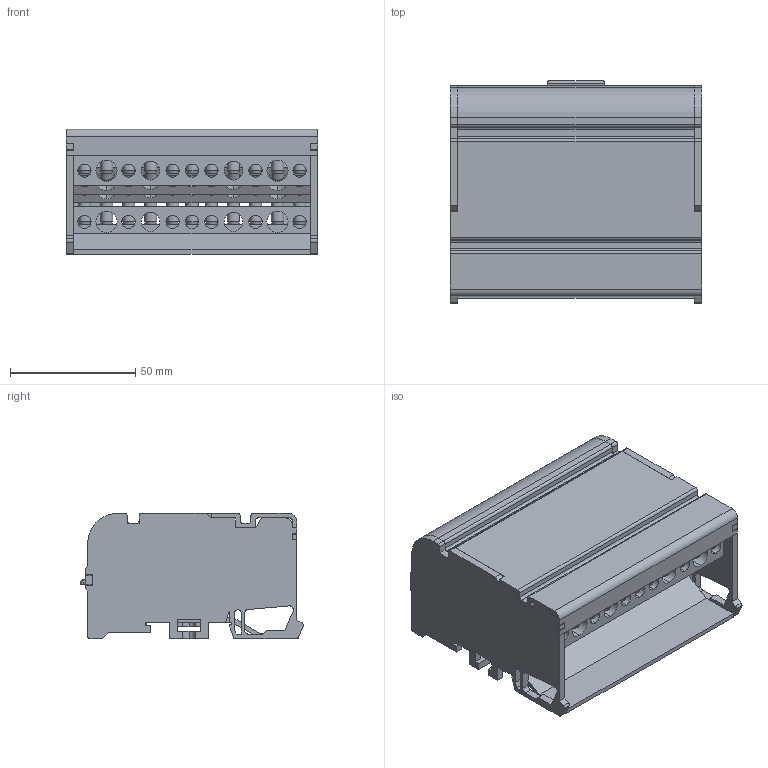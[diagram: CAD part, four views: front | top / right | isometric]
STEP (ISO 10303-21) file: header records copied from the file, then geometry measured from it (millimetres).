
FILE_DESCRIPTION (( 'STEP AP203' ), '1' );
FILE_NAME ('sn0-4x11 Øèíà íóëåâàÿ â êîðïóñå (4õ11).STEP', '2017-02-22T16:31:40', ( 'kuryshev' ), ( '' ), 'SwSTEP 2.0', 'SolidWorks 2010', '' );
FILE_SCHEMA (( 'CONFIG_CONTROL_DESIGN' ));
Length unit declared in the file: millimetre
Products named in the file (1): sn0-4x11 Øèíà íóëåâàÿ â êîðïóñå (4õ11)
Bounding box: 100.4 x 88.93 x 50 mm (x, y, z)
Volume: 96514.7 mm3; surface area: 98038.7 mm2
Topology: 52 solids, 52 shells, 1786 faces, 4834 edges, 3100 vertices
Faces by surface type: plane 1108, cylinder 414, torus 176, cone 88
Entity records: 59057 total; most frequent: CARTESIAN_POINT 13319, ORIENTED_EDGE 9668, DIRECTION 9430, EDGE_CURVE 4834, AXIS2_PLACEMENT_3D 3163, LINE 3104, VECTOR 3104, VERTEX_POINT 3100
